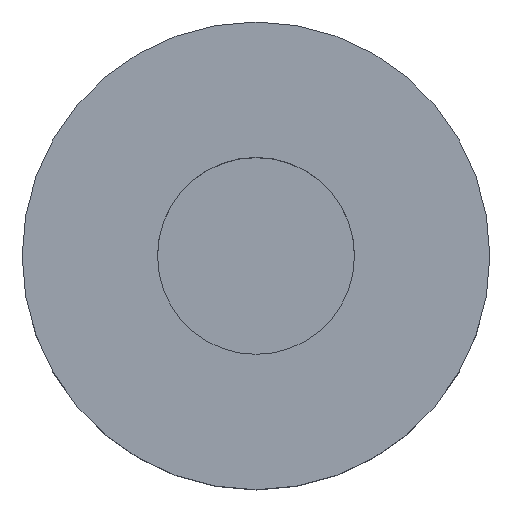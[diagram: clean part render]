
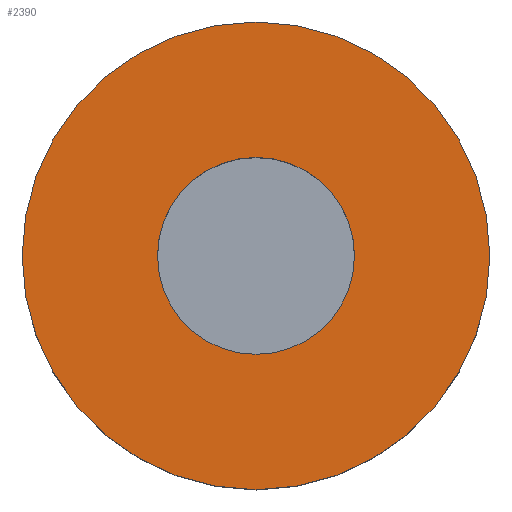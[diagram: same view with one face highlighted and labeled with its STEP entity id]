
A CAD part, top view. The second image highlights one B-rep face of the part: STEP entity #2390.
In plain terms, the highlighted planar face has unit normal (0, 0, 1).
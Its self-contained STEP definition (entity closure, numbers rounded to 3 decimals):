
#516=EDGE_CURVE('',#1044,#1044,#1045,.T.);
#518=EDGE_CURVE('',#1047,#1047,#1048,.T.);
#1044=VERTEX_POINT('',#2275);
#1045=CIRCLE('',#2276,20.);
#1047=VERTEX_POINT('',#2279);
#1048=CIRCLE('',#2280,47.5);
#2275=CARTESIAN_POINT('',(0.0,20.,0.));
#2276=AXIS2_PLACEMENT_3D('',#2840,#2841,#2842);
#2279=CARTESIAN_POINT('',(0.0,47.5,0.));
#2280=AXIS2_PLACEMENT_3D('',#2843,#2844,#2845);
#2390=ADVANCED_FACE('',(#3032,#3033),#3034,.T.);
#2840=CARTESIAN_POINT('',(0.0,0.0,0.));
#2841=DIRECTION('',(0.0,0.0,-1.0));
#2842=DIRECTION('',(0.0,1.0,0.0));
#2843=CARTESIAN_POINT('',(0.0,0.0,0.));
#2844=DIRECTION('',(0.0,0.0,-1.0));
#2845=DIRECTION('',(0.0,1.0,0.0));
#3032=FACE_BOUND('',#3272,.T.);
#3033=FACE_OUTER_BOUND('',#3273,.T.);
#3034=PLANE('',#3274);
#3272=EDGE_LOOP('',(#3800));
#3273=EDGE_LOOP('',(#3801));
#3274=AXIS2_PLACEMENT_3D('',#3802,#3803,#3804);
#3800=ORIENTED_EDGE('',*,*,#516,.T.);
#3801=ORIENTED_EDGE('',*,*,#518,.F.);
#3802=CARTESIAN_POINT('',(47.5,0.0,0.));
#3803=DIRECTION('',(0.0,0.0,1.0));
#3804=DIRECTION('',(1.0,0.0,0.0));
